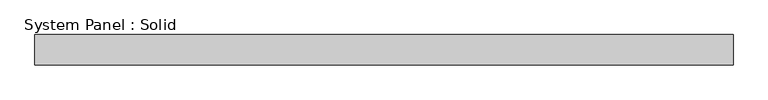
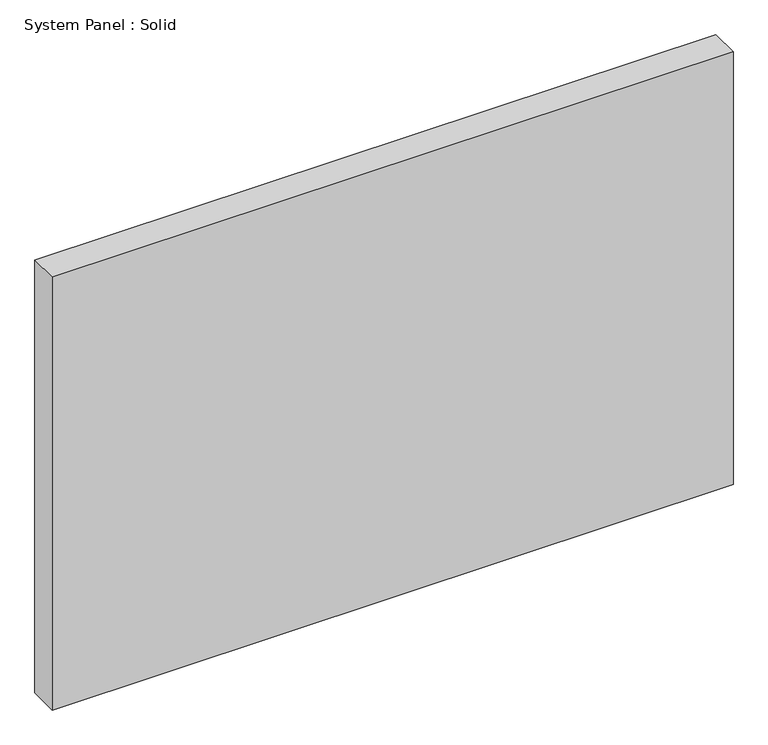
"""IFC4 building model written with IfcOpenShell, lengths in millimetres: plate geometry, System Panel : Solid."""

from ifc_helpers import new_model, si_unit, origin, origin_with_axes, place, context, project, spatial, polyline, outline, extrude, source, transform, mapped, element, save


def system_panel_solid_87c6c2f1(model_context):
    return source(origin(), model_context, "Body", "SweptSolid", [
        extrude(outline(polyline([(688.0142442, -49.5), (-688.0142442, -49.5), (-688.0142442, 10.5), (688.0142442, 10.5), (688.0142442, -49.5)])), origin_with_axes(), (0.0, 0.0, 1.0), 925.0),
    ])


if __name__ == "__main__":
    model = new_model("IFC4")
    model_context = context("Model", 3, world=origin())
    ifc_project = project(units=[si_unit("LENGTHUNIT", "METRE", prefix="MILLI")], contexts=[model_context])
    site = spatial("IfcSite", under=ifc_project)
    building = spatial("IfcBuilding", under=site)
    placement = place(None, origin())
    system_panel_solid_shape = system_panel_solid_87c6c2f1(model_context)
    element("IfcPlate", 1, ObjectType="System Panel : Solid", at=placement, inside=building, context=model_context, shape_type="MappedRepresentation", body=[
        mapped(system_panel_solid_shape, transform((0.0, 0.0, 0.0), x_axis=(1.0, 0.0, 0.0), y_axis=(0.0, 1.0, 0.0), z_axis=(0.0, 0.0, 1.0))),
    ])
    save(model, "model.ifc")
